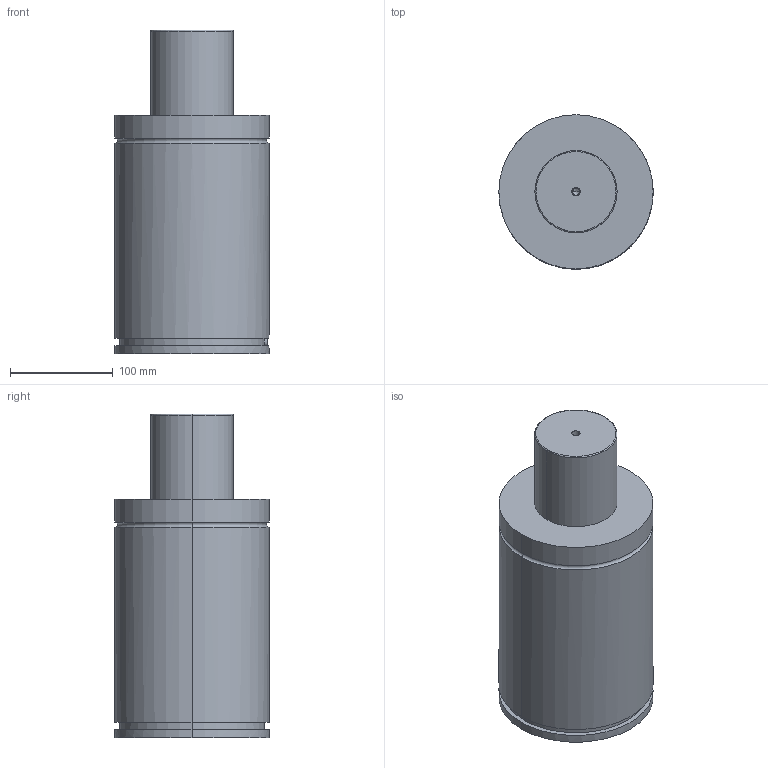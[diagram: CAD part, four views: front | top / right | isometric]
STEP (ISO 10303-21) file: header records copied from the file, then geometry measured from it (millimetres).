
FILE_DESCRIPTION(/* description */ (''),/* implementation_level */ '2;1');
FILE_NAME(/* name */ '3d_gse150-80_03870_r00.stp',/* time_stamp */ '2011-01-10T14:15:20+09:00',/* author */ ('MISUMI'),/* organization */ (''),/* preprocessor_version */ 'ST-DEVELOPER v11',/* originating_system */ 'UGS - NX 5.0',/* authorisation */ '');
FILE_SCHEMA (('CONFIG_CONTROL_DESIGN'));
Length unit declared in the file: millimetre
Products named in the file (1): 3d_gse150-80_03870_r00
Bounding box: 150 x 150 x 315 mm (x, y, z)
Volume: 4490429.3 mm3; surface area: 173874.2 mm2
Topology: 1 solids, 1 shells, 75 faces, 161 edges, 103 vertices
Faces by surface type: cylinder 34, plane 27, cone 10, torus 4
Entity records: 2145 total; most frequent: DIRECTION 393, CARTESIAN_POINT 360, ORIENTED_EDGE 318, AXIS2_PLACEMENT_3D 164, EDGE_CURVE 159, VERTEX_POINT 103, EDGE_LOOP 92, CIRCLE 88
